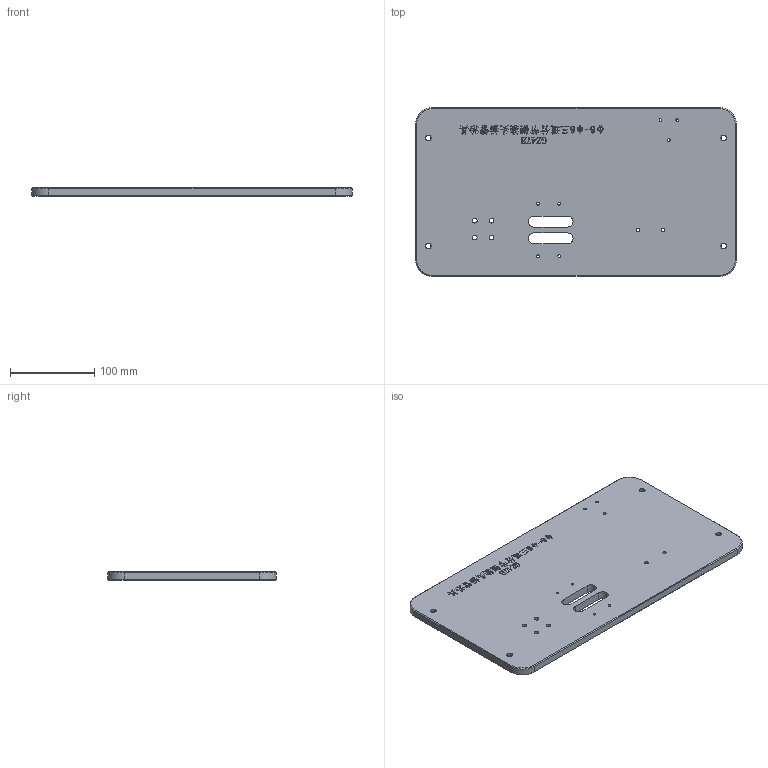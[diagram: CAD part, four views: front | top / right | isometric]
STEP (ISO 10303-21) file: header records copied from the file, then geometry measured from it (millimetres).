
FILE_DESCRIPTION (( 'STEP AP214' ), '1' );
FILE_NAME ('GZ47B.01_V1底座-02.STEP', '2021-06-30T08:02:42', ( '微软中国' ), ( 'Microsoft' ), 'SwSTEP 2.0', 'SolidWorks 2017', '' );
FILE_SCHEMA (( 'AUTOMOTIVE_DESIGN' ));
Length unit declared in the file: millimetre
Products named in the file (1): GZ47B.01_V1菁釱-02
Bounding box: 380 x 200 x 10 mm (x, y, z)
Volume: 736316.3 mm3; surface area: 163626.3 mm2
Topology: 1 solids, 1 shells, 883 faces, 2426 edges, 1612 vertices
Faces by surface type: plane 488, bspline 327, cylinder 60, cone 8
Entity records: 50456 total; most frequent: CARTESIAN_POINT 21305, ORIENTED_EDGE 4852, DIRECTION 3014, EDGE_CURVE 2426, LINE 1644, VECTOR 1644, VERTEX_POINT 1612, EDGE_LOOP 988
